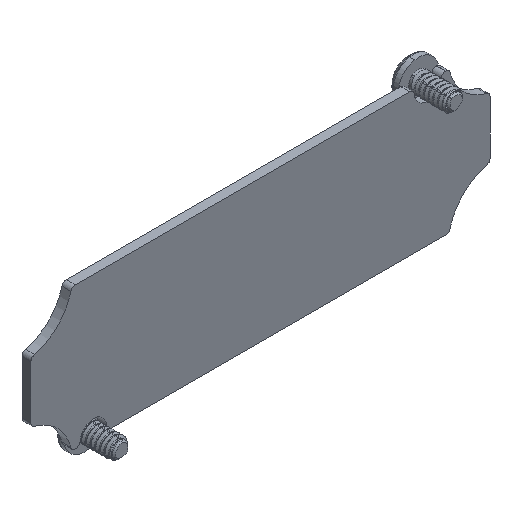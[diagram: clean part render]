
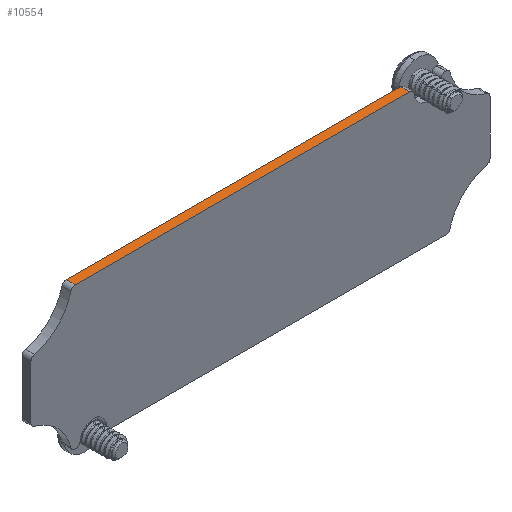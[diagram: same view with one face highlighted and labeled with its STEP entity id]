
A CAD part, isometric view. The second image highlights one B-rep face of the part: STEP entity #10554.
In plain terms, the highlighted planar face has unit normal (0, 0, 1).
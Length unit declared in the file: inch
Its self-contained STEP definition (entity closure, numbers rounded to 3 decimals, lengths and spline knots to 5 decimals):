
#337 = ORIENTED_EDGE ( 'NONE', *, *, #14787, .T. ) ;
#587 = CARTESIAN_POINT ( 'NONE',  ( -1.23693, 0.06, 0.47441 ) ) ;
#1683 = EDGE_LOOP ( 'NONE', ( #10002, #9531, #5261, #337 ) ) ;
#1964 = CARTESIAN_POINT ( 'NONE',  ( -1.23693, 0.06, 0.47441 ) ) ;
#3720 = FACE_OUTER_BOUND ( 'NONE', #1683, .T. ) ;
#4297 = EDGE_CURVE ( 'NONE', #9032, #7927, #11094, .T. ) ;
#4514 = DIRECTION ( 'NONE',  ( 1., 0., 0. ) ) ;
#4616 = VECTOR ( 'NONE', #13712, 39.37008 ) ;
#5261 = ORIENTED_EDGE ( 'NONE', *, *, #4297, .F. ) ;
#5787 = CARTESIAN_POINT ( 'NONE',  ( 0.99668, 0.06, 0.47441 ) ) ;
#6755 = LINE ( 'NONE', #5787, #4616 ) ;
#7421 = CARTESIAN_POINT ( 'NONE',  ( -1.23693, 0., 0.47441 ) ) ;
#7927 = VERTEX_POINT ( 'NONE', #9202 ) ;
#9032 = VERTEX_POINT ( 'NONE', #587 ) ;
#9202 = CARTESIAN_POINT ( 'NONE',  ( 0.99668, 0.06, 0.47441 ) ) ;
#9531 = ORIENTED_EDGE ( 'NONE', *, *, #16811, .F. ) ;
#9799 = LINE ( 'NONE', #9974, #13039 ) ;
#9858 = CARTESIAN_POINT ( 'NONE',  ( -1.23693, 0.06, 0.47441 ) ) ;
#9974 = CARTESIAN_POINT ( 'NONE',  ( -1.23693, 0., 0.47441 ) ) ;
#10002 = ORIENTED_EDGE ( 'NONE', *, *, #16191, .T. ) ;
#10226 = VERTEX_POINT ( 'NONE', #7421 ) ;
#10235 = LINE ( 'NONE', #1964, #15813 ) ;
#10554 = ADVANCED_FACE ( 'NONE', ( #3720 ), #17143, .F. ) ;
#10575 = DIRECTION ( 'NONE',  ( 0., 0., -1. ) ) ;
#10651 = CARTESIAN_POINT ( 'NONE',  ( 0.99668, 0., 0.47441 ) ) ;
#11094 = LINE ( 'NONE', #9858, #16850 ) ;
#11643 = DIRECTION ( 'NONE',  ( 0., -1., 0. ) ) ;
#12081 = CARTESIAN_POINT ( 'NONE',  ( -1.23693, 0.06, 0.47441 ) ) ;
#12763 = DIRECTION ( 'NONE',  ( 1., 0., 0. ) ) ;
#13039 = VECTOR ( 'NONE', #4514, 39.37008 ) ;
#13389 = DIRECTION ( 'NONE',  ( -1., 0., 0. ) ) ;
#13712 = DIRECTION ( 'NONE',  ( 0., -1., 0. ) ) ;
#14600 = AXIS2_PLACEMENT_3D ( 'NONE', #12081, #10575, #13389 ) ;
#14787 = EDGE_CURVE ( 'NONE', #9032, #10226, #10235, .T. ) ;
#15813 = VECTOR ( 'NONE', #11643, 39.37008 ) ;
#16191 = EDGE_CURVE ( 'NONE', #10226, #16395, #9799, .T. ) ;
#16395 = VERTEX_POINT ( 'NONE', #10651 ) ;
#16811 = EDGE_CURVE ( 'NONE', #7927, #16395, #6755, .T. ) ;
#16850 = VECTOR ( 'NONE', #12763, 39.37008 ) ;
#17143 = PLANE ( 'NONE',  #14600 ) ;
